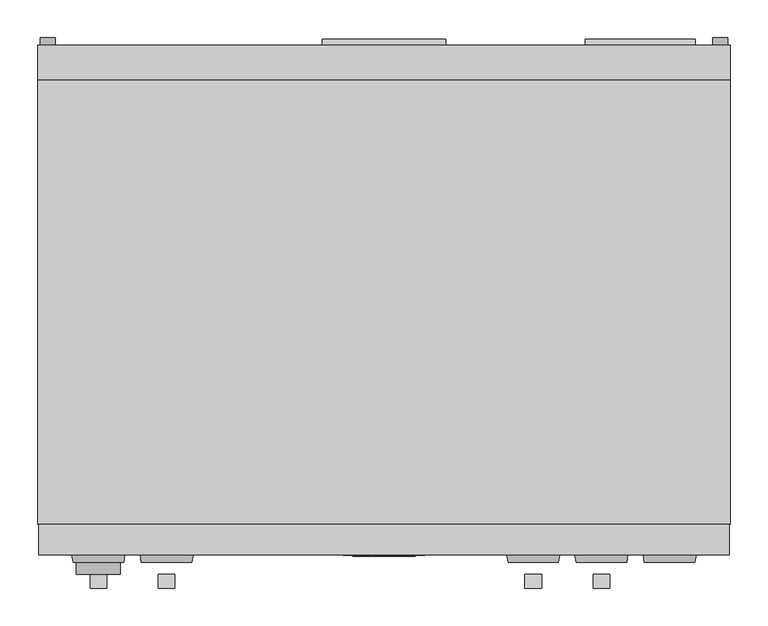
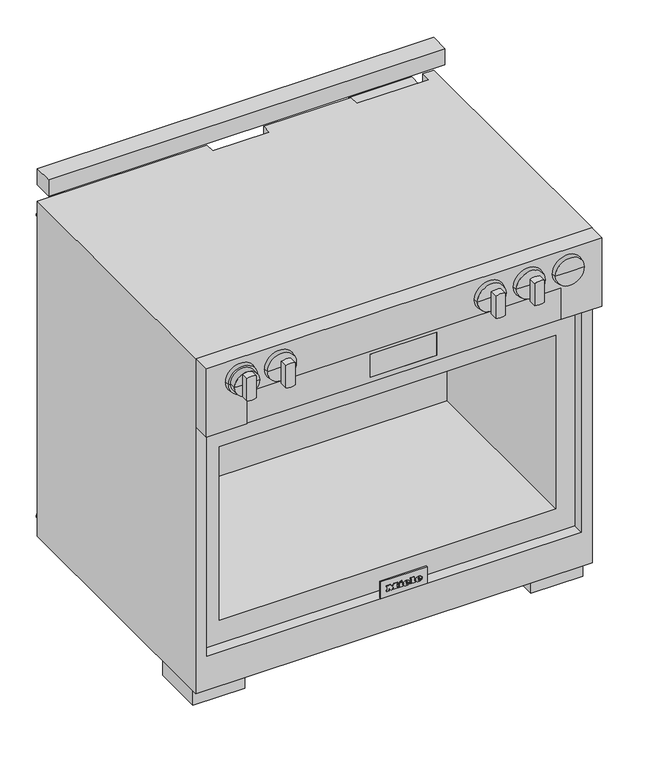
"""IFC4 building model written with IfcOpenShell, lengths in millimetres: proxy geometry, 11791600_USA_HR1935-3G_EDST-CLST : 25193581_USA_11791600_HR1935-3G_EDST-CLST."""

from ifc_helpers import new_model, si_unit, point, frame, frame_2d, origin, origin_with_axes, place, context, project, spatial, polyline, circle_curve, ellipse_curve, trimmed, segment, composite_curve, outline, extrude, faceted_brep, source, transform, mapped, element, save
from ifc_brep_helpers import plane_surface, cylinder_surface, revolved_surface, extruded_surface, advanced_brep


def specialty_equipment_dba59635(model_context):
    return source(origin(), model_context, "Body", "SolidModel", [
        advanced_brep(
        [(-377.0, -683.0, 813.0), (-348.0, -683.0, 813.0), (-406.0, -683.0, 813.0), (-406.0, -699.0, 813.0), (-348.0, -699.0, 813.0), (-377.0, -699.0, 813.0)],
        [
            (0, 1),
            (1, 2, circle_curve(frame((-377.0, -683.0, 813.0), z_axis=(0.0, 1.0, 0.0), x_axis=(1.0, 0.0, 0.0)), 29.0)),
            (2, 0),
            (2, 1, circle_curve(frame((-377.0, -683.0, 813.0), z_axis=(0.0, 1.0, 0.0), x_axis=(1.0, 0.0, 0.0)), 29.0)),
            (3, 4, circle_curve(frame((-377.0, -699.0, 813.0), z_axis=(0.0, -1.0, 0.0), x_axis=(1.0, 0.0, 0.0)), 29.0)),
            (4, 5),
            (5, 3),
            (4, 3, circle_curve(frame((-377.0, -699.0, 813.0), z_axis=(0.0, -1.0, 0.0), x_axis=(1.0, 0.0, 0.0)), 29.0)),
            (1, 4),
            (3, 2),
        ],
        [
            plane_surface(frame((-377.0, -683.0, 813.0), z_axis=(0.0, 1.0, 0.0), x_axis=(1.0, 0.0, 0.0))),
            plane_surface(frame((-377.0, -699.0, 813.0), z_axis=(0.0, -1.0, 0.0), x_axis=(1.0, 0.0, 0.0))),
            cylinder_surface(frame((-377.0, 751.3738435, 813.0), z_axis=(0.0, 1.0, 0.0), x_axis=(1.0, 0.0, 0.0)), 29.0),
        ],
        [
            (0, [[1, 2, 3]]),
            (0, [[-3, 4, -1]]),
            (1, [[5, 6, 7]]),
            (1, [[8, -7, -6]]),
            (2, [[-2, 9, -5, 10]]),
            (2, [[-4, -10, -8, -9]]),
        ],
    ),
        extrude(outline(composite_curve([segment(trimmed(circle_curve(frame_2d((813.0, 287.0)), 29.0), [point((786.1671843, 276.0))], [point((786.1671843, 298.0))], False, "CARTESIAN"), True, "CONTINUOUS"), segment(polyline([(786.1671843, 298.0), (839.8328157, 298.0)]), True, "CONTINUOUS"), segment(trimmed(circle_curve(frame_2d((813.0, 287.0)), 29.0), [point((839.8328157, 298.0))], [point((839.8328157, 276.0))], False, "CARTESIAN"), True, "CONTINUOUS"), segment(polyline([(839.8328157, 276.0), (786.1671843, 276.0)]), True, "CONTINUOUS")], self_intersect=False)), frame((0.0, -717.0, 0.0), z_axis=(0.0, 1.0, 0.0), x_axis=(0.0, 0.0, 1.0)), (0.0, 0.0, 1.0), 18.0),
        extrude(outline(composite_curve([segment(polyline([(839.8328157, 186.0), (786.1671843, 186.0)]), True, "CONTINUOUS"), segment(trimmed(circle_curve(frame_2d((813.0, 197.0)), 29.0), [point((786.1671843, 186.0))], [point((786.1671843, 208.0))], False, "CARTESIAN"), True, "CONTINUOUS"), segment(polyline([(786.1671843, 208.0), (839.8328157, 208.0)]), True, "CONTINUOUS"), segment(trimmed(circle_curve(frame_2d((813.0, 197.0)), 29.0), [point((839.8328157, 208.0))], [point((839.8328157, 186.0))], False, "CARTESIAN"), True, "CONTINUOUS")], self_intersect=False)), frame((0.0, -717.0, 0.0), z_axis=(0.0, 1.0, 0.0), x_axis=(0.0, 0.0, 1.0)), (0.0, 0.0, 1.0), 18.0),
        extrude(outline(composite_curve([segment(polyline([(839.8328157, -298.0), (786.1671843, -298.0)]), True, "CONTINUOUS"), segment(trimmed(circle_curve(frame_2d((813.0, -287.0)), 29.0), [point((786.1671843, -298.0))], [point((786.1671843, -276.0))], False, "CARTESIAN"), True, "CONTINUOUS"), segment(polyline([(786.1671843, -276.0), (839.8328157, -276.0)]), True, "CONTINUOUS"), segment(trimmed(circle_curve(frame_2d((813.0, -287.0)), 29.0), [point((839.8328157, -276.0))], [point((839.8328157, -298.0))], False, "CARTESIAN"), True, "CONTINUOUS")], self_intersect=False)), frame((0.0, -717.0, 0.0), z_axis=(0.0, 1.0, 0.0), x_axis=(0.0, 0.0, 1.0)), (0.0, 0.0, 1.0), 18.0),
        extrude(outline(composite_curve([segment(polyline([(839.8328157, -388.0), (786.1671843, -388.0)]), True, "CONTINUOUS"), segment(trimmed(circle_curve(frame_2d((813.0, -377.0)), 29.0), [point((786.1671843, -388.0))], [point((786.1671843, -366.0))], False, "CARTESIAN"), True, "CONTINUOUS"), segment(polyline([(786.1671843, -366.0), (839.8328157, -366.0)]), True, "CONTINUOUS"), segment(trimmed(circle_curve(frame_2d((813.0, -377.0)), 29.0), [point((839.8328157, -366.0))], [point((839.8328157, -388.0))], False, "CARTESIAN"), True, "CONTINUOUS")], self_intersect=False)), frame((0.0, -717.0, 0.0), z_axis=(0.0, 1.0, 0.0), x_axis=(0.0, 0.0, 1.0)), (0.0, 0.0, 1.0), 18.0),
        advanced_brep(
        [(343.7632698, -683.0, 813.0), (410.2367302, -683.0, 813.0), (377.0, -683.0, 813.0), (342.0, -673.0, 813.0), (412.0, -673.0, 813.0), (377.0, -673.0, 813.0)],
        [
            (0, 1, circle_curve(frame((377.0, -683.0, 813.0), z_axis=(0.0, -1.0, 0.0), x_axis=(1.0, 0.0, 0.0)), 33.2367302)),
            (1, 2),
            (2, 0),
            (1, 0, circle_curve(frame((377.0, -683.0, 813.0), z_axis=(0.0, -1.0, 0.0), x_axis=(1.0, 0.0, 0.0)), 33.2367302)),
            (3, 4, circle_curve(frame((377.0, -673.0, 813.0), z_axis=(0.0, -1.0, 0.0), x_axis=(1.0, 0.0, 0.0)), 35.0)),
            (4, 1),
            (0, 3),
            (4, 3, circle_curve(frame((377.0, -673.0, 813.0), z_axis=(0.0, -1.0, 0.0), x_axis=(1.0, 0.0, 0.0)), 35.0)),
            (5, 4),
            (3, 5),
        ],
        [
            plane_surface(frame((377.0, -683.0, 813.0), z_axis=(0.0, -1.0, 0.0), x_axis=(1.0, 0.0, 0.0))),
            revolved_surface(polyline([(410.2367302, -683.0, 813.0), (412.0, -673.0, 813.0)]), (377.0, 751.3738435, 813.0), (0.0, 1.0, 0.0)),
            plane_surface(frame((377.0, -673.0, 813.0), z_axis=(0.0, 1.0, 0.0), x_axis=(1.0, 0.0, 0.0))),
        ],
        [
            (0, [[1, 2, 3]]),
            (0, [[4, -3, -2]]),
            (1, [[5, 6, -1, 7]]),
            (1, [[8, -7, -4, -6]]),
            (2, [[9, -5, 10]]),
            (2, [[-10, -8, -9]]),
        ],
    ),
        advanced_brep(
        [(253.7632698, -683.0, 813.0), (320.2367302, -683.0, 813.0), (287.0, -683.0, 813.0), (252.0, -673.0, 813.0), (322.0, -673.0, 813.0), (287.0, -673.0, 813.0)],
        [
            (0, 1, circle_curve(frame((287.0, -683.0, 813.0), z_axis=(0.0, -1.0, 0.0), x_axis=(1.0, 0.0, 0.0)), 33.2367302)),
            (1, 2),
            (2, 0),
            (1, 0, circle_curve(frame((287.0, -683.0, 813.0), z_axis=(0.0, -1.0, 0.0), x_axis=(1.0, 0.0, 0.0)), 33.2367302)),
            (3, 4, circle_curve(frame((287.0, -673.0, 813.0), z_axis=(0.0, -1.0, 0.0), x_axis=(1.0, 0.0, 0.0)), 35.0)),
            (4, 1),
            (0, 3),
            (4, 3, circle_curve(frame((287.0, -673.0, 813.0), z_axis=(0.0, -1.0, 0.0), x_axis=(1.0, 0.0, 0.0)), 35.0)),
            (5, 4),
            (3, 5),
        ],
        [
            plane_surface(frame((287.0, -683.0, 813.0), z_axis=(0.0, -1.0, 0.0), x_axis=(1.0, 0.0, 0.0))),
            revolved_surface(polyline([(320.2367302, -683.0, 813.0), (322.0, -673.0, 813.0)]), (287.0, 751.3738435, 813.0), (0.0, 1.0, 0.0)),
            plane_surface(frame((287.0, -673.0, 813.0), z_axis=(0.0, 1.0, 0.0), x_axis=(1.0, 0.0, 0.0))),
        ],
        [
            (0, [[1, 2, 3]]),
            (0, [[4, -3, -2]]),
            (1, [[5, 6, -1, 7]]),
            (1, [[8, -7, -4, -6]]),
            (2, [[9, -5, 10]]),
            (2, [[-10, -8, -9]]),
        ],
    ),
        advanced_brep(
        [(163.7632698, -683.0, 813.0), (230.2367302, -683.0, 813.0), (197.0, -683.0, 813.0), (162.0, -673.0, 813.0), (232.0, -673.0, 813.0), (197.0, -673.0, 813.0)],
        [
            (0, 1, circle_curve(frame((197.0, -683.0, 813.0), z_axis=(0.0, -1.0, 0.0), x_axis=(1.0, 0.0, 0.0)), 33.2367302)),
            (1, 2),
            (2, 0),
            (1, 0, circle_curve(frame((197.0, -683.0, 813.0), z_axis=(0.0, -1.0, 0.0), x_axis=(1.0, 0.0, 0.0)), 33.2367302)),
            (3, 4, circle_curve(frame((197.0, -673.0, 813.0), z_axis=(0.0, -1.0, 0.0), x_axis=(1.0, 0.0, 0.0)), 35.0)),
            (4, 1),
            (0, 3),
            (4, 3, circle_curve(frame((197.0, -673.0, 813.0), z_axis=(0.0, -1.0, 0.0), x_axis=(1.0, 0.0, 0.0)), 35.0)),
            (5, 4),
            (3, 5),
        ],
        [
            plane_surface(frame((197.0, -683.0, 813.0), z_axis=(0.0, -1.0, 0.0), x_axis=(1.0, 0.0, 0.0))),
            revolved_surface(polyline([(230.2367302, -683.0, 813.0), (232.0, -673.0, 813.0)]), (197.0, 751.3738435, 813.0), (0.0, 1.0, 0.0)),
            plane_surface(frame((197.0, -673.0, 813.0), z_axis=(0.0, 1.0, 0.0), x_axis=(1.0, 0.0, 0.0))),
        ],
        [
            (0, [[1, 2, 3]]),
            (0, [[4, -3, -2]]),
            (1, [[5, 6, -1, 7]]),
            (1, [[8, -7, -4, -6]]),
            (2, [[9, -5, 10]]),
            (2, [[-10, -8, -9]]),
        ],
    ),
        advanced_brep(
        [(-320.2367302, -683.0, 813.0), (-253.7632698, -683.0, 813.0), (-287.0, -683.0, 813.0), (-322.0, -673.0, 813.0), (-252.0, -673.0, 813.0), (-287.0, -673.0, 813.0)],
        [
            (0, 1, circle_curve(frame((-287.0, -683.0, 813.0), z_axis=(0.0, -1.0, 0.0), x_axis=(1.0, 0.0, 0.0)), 33.2367302)),
            (1, 2),
            (2, 0),
            (1, 0, circle_curve(frame((-287.0, -683.0, 813.0), z_axis=(0.0, -1.0, 0.0), x_axis=(1.0, 0.0, 0.0)), 33.2367302)),
            (3, 4, circle_curve(frame((-287.0, -673.0, 813.0), z_axis=(0.0, -1.0, 0.0), x_axis=(1.0, 0.0, 0.0)), 35.0)),
            (4, 1),
            (0, 3),
            (4, 3, circle_curve(frame((-287.0, -673.0, 813.0), z_axis=(0.0, -1.0, 0.0), x_axis=(1.0, 0.0, 0.0)), 35.0)),
            (5, 4),
            (3, 5),
        ],
        [
            plane_surface(frame((-287.0, -683.0, 813.0), z_axis=(0.0, -1.0, 0.0), x_axis=(1.0, 0.0, 0.0))),
            revolved_surface(polyline([(-253.7632698, -683.0, 813.0), (-252.0, -673.0, 813.0)]), (-287.0, 751.3738435, 813.0), (0.0, 1.0, 0.0)),
            plane_surface(frame((-287.0, -673.0, 813.0), z_axis=(0.0, 1.0, 0.0), x_axis=(1.0, 0.0, 0.0))),
        ],
        [
            (0, [[1, 2, 3]]),
            (0, [[4, -3, -2]]),
            (1, [[5, 6, -1, 7]]),
            (1, [[8, -7, -4, -6]]),
            (2, [[9, -5, 10]]),
            (2, [[-10, -8, -9]]),
        ],
    ),
        advanced_brep(
        [(-410.2367302, -683.0, 813.0), (-343.7632698, -683.0, 813.0), (-377.0, -683.0, 813.0), (-412.0, -673.0, 813.0), (-342.0, -673.0, 813.0), (-377.0, -673.0, 813.0)],
        [
            (0, 1, circle_curve(frame((-377.0, -683.0, 813.0), z_axis=(0.0, -1.0, 0.0), x_axis=(1.0, 0.0, 0.0)), 33.2367302)),
            (1, 2),
            (2, 0),
            (1, 0, circle_curve(frame((-377.0, -683.0, 813.0), z_axis=(0.0, -1.0, 0.0), x_axis=(1.0, 0.0, 0.0)), 33.2367302)),
            (3, 4, circle_curve(frame((-377.0, -673.0, 813.0), z_axis=(0.0, -1.0, 0.0), x_axis=(1.0, 0.0, 0.0)), 35.0)),
            (4, 1),
            (0, 3),
            (4, 3, circle_curve(frame((-377.0, -673.0, 813.0), z_axis=(0.0, -1.0, 0.0), x_axis=(1.0, 0.0, 0.0)), 35.0)),
            (5, 4),
            (3, 5),
        ],
        [
            plane_surface(frame((-377.0, -683.0, 813.0), z_axis=(0.0, -1.0, 0.0), x_axis=(1.0, 0.0, 0.0))),
            revolved_surface(polyline([(-343.7632698, -683.0, 813.0), (-342.0, -673.0, 813.0)]), (-377.0, 751.3738435, 813.0), (0.0, 1.0, 0.0)),
            plane_surface(frame((-377.0, -673.0, 813.0), z_axis=(0.0, 1.0, 0.0), x_axis=(1.0, 0.0, 0.0))),
        ],
        [
            (0, [[1, 2, 3]]),
            (0, [[4, -3, -2]]),
            (1, [[5, 6, -1, 7]]),
            (1, [[8, -7, -4, -6]]),
            (2, [[9, -5, 10]]),
            (2, [[-10, -8, -9]]),
        ],
    ),
        faceted_brep([(456.0, -673.0, 862.0), (-456.0, -673.0, 862.0), (-456.0, -673.0, 695.0), (-363.0, -673.0, 695.0), (-363.0, -673.0, 772.0), (363.0, -673.0, 772.0), (363.0, -673.0, 695.0), (456.0, -673.0, 695.0), (456.0, -633.0, 862.0), (456.0, -633.0, 695.0), (-456.0, -633.0, 695.0), (-456.0, -633.0, 862.0), (363.0, -666.7, 695.0), (-363.0, -666.7, 695.0), (363.0, -666.7, 772.0), (-363.0, -666.7, 772.0)], [[[0, 1, 2, 3, 4, 5, 6, 7]], [[8, 9, 10, 11]], [[0, 7, 9, 8]], [[10, 9, 7, 6, 12, 13, 3, 2]], [[2, 1, 11, 10]], [[1, 0, 8, 11]], [[14, 15, 13, 12]], [[14, 12, 6, 5]], [[13, 15, 4, 3]], [[15, 14, 5, 4]]]),
        extrude(outline(polyline([(772.0, 363.0), (772.0, -363.0), (695.0, -363.0), (695.0, 363.0), (772.0, 363.0)]), holes=[polyline([(763.0, 76.5), (707.0, 76.5), (707.0, -76.5), (763.0, -76.5), (763.0, 76.5)])]), frame((0.0, -671.7, 0.0), z_axis=(0.0, 1.0, 0.0), x_axis=(0.0, 0.0, 1.0)), (0.0, 0.0, 1.0), 5.0),
        extrude(outline(polyline([(76.5, -671.7), (-76.5, -671.7), (-76.5, -670.7), (76.5, -670.7), (76.5, -671.7)])), frame((0.0, 0.0, 707.0), z_axis=(0.0, 0.0, 1.0), x_axis=(1.0, 0.0, 0.0)), (0.0, 0.0, 1.0), 56.0),
        extrude(outline(polyline([(-330.0, -489.0), (-330.0, -609.0), (-450.0, -609.0), (-450.0, -489.0), (-330.0, -489.0)])), origin_with_axes(), (0.0, 0.0, 1.0), 45.0),
        extrude(outline(polyline([(450.0, -489.0), (450.0, -609.0), (330.0, -609.0), (330.0, -489.0), (450.0, -489.0)])), origin_with_axes(), (0.0, 0.0, 1.0), 45.0),
        extrude(outline(composite_curve([segment(trimmed(circle_curve(frame_2d((-152.0, 39.6862697)), 39.6862697), [point((-112.6710759, 45.0))], [point((-191.3289241, 45.0))], False, "CARTESIAN"), True, "CONTINUOUS"), segment(polyline([(-191.3289241, 45.0), (-112.6710759, 45.0)]), True, "CONTINUOUS")], self_intersect=False)), frame((-310.0, 0.0, 0.0), z_axis=(1.0, 0.0, 0.0), x_axis=(0.0, 1.0, 0.0)), (0.0, 0.0, 1.0), 28.0),
        faceted_brep([(-457.0, 0.0, 862.0), (-457.0, -633.0, 862.0), (457.0, -633.0, 862.0), (457.0, 0.0, 862.0), (432.0, 0.0, 862.0), (432.0, -23.0, 862.0), (266.0, -23.0, 862.0), (266.0, 0.0, 862.0), (65.0, 0.0, 862.0), (65.0, -23.0, 862.0), (-66.0, -23.0, 862.0), (-66.0, 0.0, 862.0), (457.0, 0.0, 45.0), (457.0, -633.0, 45.0), (-457.0, -633.0, 45.0), (-457.0, 0.0, 45.0), (-432.0, 0.0, 45.0), (-432.0, -75.0, 45.0), (432.0, -75.0, 45.0), (432.0, 0.0, 45.0), (266.0, 0.0, 132.0), (65.0, 0.0, 132.0), (-66.0, 0.0, 132.0), (-270.0, 0.0, 132.0), (-270.0, 0.0, 784.0), (-411.0, 0.0, 784.0), (-411.0, 0.0, 132.0), (-432.0, 0.0, 132.0), (432.0, -633.0, 695.0), (432.0, -633.0, 128.0), (-432.0, -633.0, 128.0), (-432.0, -633.0, 695.0), (432.0, -608.0, 695.0), (-432.0, -608.0, 695.0), (-432.0, -608.0, 128.0), (432.0, -608.0, 128.0), (388.0, -608.0, 608.0), (388.0, -608.0, 185.0), (-388.0, -608.0, 185.0), (-388.0, -608.0, 608.0), (388.0, -173.0, 608.0), (-388.0, -173.0, 608.0), (-388.0, -173.0, 185.0), (388.0, -173.0, 185.0), (432.0, -23.0, 132.0), (266.0, -23.0, 132.0), (65.0, -23.0, 132.0), (-66.0, -23.0, 132.0), (432.0, -75.0, 132.0), (-411.0, -69.0, 784.0), (-270.0, -69.0, 784.0), (-270.0, -69.0, 132.0), (-411.0, -69.0, 132.0), (-432.0, -75.0, 132.0)], [[[0, 1, 2, 3, 4, 5, 6, 7, 8, 9, 10, 11]], [[12, 13, 14, 15, 16, 17, 18, 19]], [[8, 7, 20, 21]], [[3, 12, 19, 4]], [[15, 0, 11, 22, 23, 24, 25, 26, 27, 16]], [[1, 0, 15, 14]], [[2, 1, 14, 13], [28, 29, 30, 31]], [[3, 2, 13, 12]], [[32, 33, 34, 35], [36, 37, 38, 39]], [[32, 35, 29, 28]], [[35, 34, 30, 29]], [[34, 33, 31, 30]], [[33, 32, 28, 31]], [[40, 41, 42, 43]], [[40, 43, 37, 36]], [[43, 42, 38, 37]], [[42, 41, 39, 38]], [[41, 40, 36, 39]], [[6, 5, 44, 45]], [[10, 9, 46, 47]], [[9, 8, 21, 46]], [[11, 10, 47, 22]], [[5, 4, 19, 18, 48, 44]], [[7, 6, 45, 20]], [[49, 50, 51, 52]], [[50, 49, 25, 24]], [[50, 24, 23, 51]], [[25, 49, 52, 26]], [[53, 48, 18, 17]], [[27, 53, 17, 16]], [[48, 53, 27, 26, 52, 51, 23, 22, 47, 46, 21, 20, 45, 44]]]),
        extrude(outline(composite_curve([segment(trimmed(circle_curve(frame_2d((748.0, -299.0)), 7.5), [point((748.0, -291.5))], [point((748.0, -306.5))], False, "CARTESIAN"), True, "CONTINUOUS"), segment(trimmed(circle_curve(frame_2d((748.0, -299.0)), 7.5), [point((748.0, -306.5))], [point((748.0, -291.5))], False, "CARTESIAN"), True, "CONTINUOUS")], self_intersect=False)), frame((0.0, -66.0, 0.0), z_axis=(0.0, 1.0, 0.0), x_axis=(0.0, 0.0, 1.0)), (0.0, 0.0, 1.0), 30.0),
        extrude(outline(polyline([(743.0, -288.4829639), (753.0509015, -288.4829639), (753.0509015, -289.7409127), (748.1386151, -289.7409127), (753.0475587, -294.8904554), (753.0475587, -296.6455728), (748.9164775, -292.3179994), (743.0, -296.8019347), (743.0, -295.2701694), (748.0664133, -291.4304743), (746.4465471, -289.7392234), (743.0, -289.7392234), (743.0, -288.4829639)])), frame((0.0, -36.0, 0.0), z_axis=(0.0, 1.0, 0.0), x_axis=(0.0, 0.0, 1.0)), (0.0, 0.0, 1.0), 1.0),
        extrude(outline(polyline([(742.9900117, -299.5376107), (753.0405487, -296.8032463), (753.0405487, -298.1010309), (744.3952189, -300.1941056), (753.0411296, -302.6946617), (753.0411296, -304.5615338), (744.4117226, -307.0845612), (753.0419182, -309.165026), (753.0419182, -310.4626989), (742.9984871, -307.7244126), (742.9984871, -306.3735976), (751.8308623, -303.6286268), (742.9900117, -301.0716905), (742.9900117, -299.5376107)])), frame((0.0, -36.0, 0.0), z_axis=(0.0, 1.0, 0.0), x_axis=(0.0, 0.0, 1.0)), (0.0, 0.0, 1.0), 1.0),
        extrude(outline(composite_curve([segment(trimmed(circle_curve(frame_2d((-362.0, -35.0)), 7.5), [point((-369.5, -35.0))], [point((-354.5, -35.0))], False, "CARTESIAN"), True, "CONTINUOUS"), segment(trimmed(circle_curve(frame_2d((-362.0, -35.0)), 7.5), [point((-354.5, -35.0))], [point((-369.5, -35.0))], False, "CARTESIAN"), True, "CONTINUOUS")], self_intersect=False)), frame((0.0, 0.0, 754.0), z_axis=(0.0, 0.0, 1.0), x_axis=(1.0, 0.0, 0.0)), (0.0, 0.0, 1.0), 30.0),
        extrude(outline(composite_curve([segment(trimmed(circle_curve(frame_2d((239.0, -44.0)), 7.5), [point((239.0, -51.5))], [point((239.0, -36.5))], False, "CARTESIAN"), True, "CONTINUOUS"), segment(trimmed(circle_curve(frame_2d((239.0, -44.0)), 7.5), [point((239.0, -36.5))], [point((239.0, -51.5))], False, "CARTESIAN"), True, "CONTINUOUS")], self_intersect=False)), frame((0.0, 0.0, 102.0), z_axis=(0.0, 0.0, 1.0), x_axis=(1.0, 0.0, 0.0)), (0.0, 0.0, 1.0), 30.0),
        extrude(outline(polyline([(246.4261097, -48.2846028), (239.1553153, -48.2846028), (239.1553153, -47.0259878), (245.1324687, -47.0259878), (245.1324687, -44.0398896), (239.4699511, -44.0398896), (239.4699511, -42.7868997), (245.1324687, -42.7868997), (245.1324687, -39.484481), (239.0234692, -39.484481), (239.0234692, -38.223126), (246.4261097, -38.223126), (246.4261097, -48.2846028)])), frame((0.0, 0.0, 101.0), z_axis=(0.0, 0.0, 1.0), x_axis=(1.0, 0.0, 0.0)), (0.0, 0.0, 1.0), 1.0),
        extrude(outline(polyline([(237.0939455, -48.2781045), (230.9083542, -48.2781045), (230.9083542, -47.0259878), (235.9083542, -47.0259878), (235.9083542, -38.223126), (237.0939455, -38.223126), (237.0939455, -48.2781045)])), frame((0.0, 0.0, 101.0), z_axis=(0.0, 0.0, 1.0), x_axis=(1.0, 0.0, 0.0)), (0.0, 0.0, 1.0), 1.0),
        extrude(outline(composite_curve([segment(polyline([(-359.0941465, -34.8216074), (-355.0193946, -34.8216074), (-355.0193946, -36.0727848), (-357.8300756, -36.0727848), (-357.8300756, -37.8953779), (-356.5547934, -38.5734575), (-354.8554891, -38.8730907)]), True, "CONTINUOUS"), segment(trimmed(circle_curve(frame_2d((-354.7763582, -35.1835188)), 3.6904203), [point((-354.8554891, -38.8730907))], [point((-351.0917956, -34.975672))], True, "CARTESIAN"), True, "CONTINUOUS"), segment(trimmed(circle_curve(frame_2d((-355.2742118, -35.2116028)), 4.1890654), [point((-351.0917956, -34.975672))], [point((-354.8924604, -31.0399683))], True, "CARTESIAN"), True, "CONTINUOUS"), segment(trimmed(circle_curve(frame_2d((-355.1434541, -33.7827322)), 2.7542243), [point((-354.8924604, -31.0399683))], [point((-357.2311401, -31.9862582))], True, "CARTESIAN"), True, "CONTINUOUS"), segment(polyline([(-357.2311401, -31.9862582), (-357.7913432, -33.1348449), (-358.9545959, -32.808521), (-358.2222817, -31.1459412)]), True, "CONTINUOUS"), segment(trimmed(circle_curve(frame_2d((-355.0056573, -34.3038983)), 4.5077007), [point((-358.2222817, -31.1459412))], [point((-354.8478593, -29.7989604))], False, "CARTESIAN"), True, "CONTINUOUS"), segment(trimmed(circle_curve(frame_2d((-355.0297107, -35.0029797)), 5.2071956), [point((-354.8478593, -29.7989604))], [point((-349.8225151, -35.0029797))], False, "CARTESIAN"), True, "CONTINUOUS"), segment(trimmed(circle_curve(frame_2d((-355.0187023, -34.9634409)), 5.1963376), [point((-349.8225151, -35.0029797))], [point((-355.0187023, -40.1597785))], False, "CARTESIAN"), True, "CONTINUOUS"), segment(polyline([(-355.0187023, -40.1597785), (-357.0821579, -39.7823822), (-359.0941465, -38.5734575), (-359.0941465, -34.8216074)]), True, "CONTINUOUS")], self_intersect=False)), frame((0.0, 0.0, 753.0), z_axis=(0.0, 0.0, 1.0), x_axis=(1.0, 0.0, 0.0)), (0.0, 0.0, 1.0), 1.0),
        extrude(outline(composite_curve([segment(polyline([(-369.4581842, -37.6489066), (-368.202206, -37.8031213), (-369.1593436, -39.5606642)]), True, "CONTINUOUS"), segment(trimmed(circle_curve(frame_2d((-371.3057471, -36.6354063)), 3.6282478), [point((-369.1593436, -39.5606642))], [point((-372.8962663, -39.8964538))], False, "CARTESIAN"), True, "CONTINUOUS"), segment(trimmed(circle_curve(frame_2d((-371.7731504, -37.593725)), 2.5620205), [point((-372.8962663, -39.8964538))], [point((-374.32893, -37.7724425))], False, "CARTESIAN"), True, "CONTINUOUS"), segment(trimmed(circle_curve(frame_2d((-372.617737, -37.6527843)), 1.7153715), [point((-374.32893, -37.7724425))], [point((-373.147816, -36.021369))], False, "CARTESIAN"), True, "CONTINUOUS"), segment(polyline([(-373.147816, -36.021369), (-371.3069947, -35.4232499), (-369.987673, -33.9770867)]), True, "CONTINUOUS"), segment(trimmed(circle_curve(frame_2d((-371.1408399, -36.351197)), 2.6393548), [point((-369.987673, -33.9770867))], [point((-372.2940069, -33.9770867))], True, "CARTESIAN"), True, "CONTINUOUS"), segment(polyline([(-372.2940069, -33.9770867), (-372.7553884, -34.6611129), (-374.0084996, -34.5072502), (-373.5756304, -33.3795875)]), True, "CONTINUOUS"), segment(trimmed(circle_curve(frame_2d((-370.9527143, -36.6576461)), 4.1982564), [point((-373.5756304, -33.3795875))], [point((-371.0505395, -32.4605295))], False, "CARTESIAN"), True, "CONTINUOUS"), segment(trimmed(circle_curve(frame_2d((-370.9805679, -35.4626064)), 3.0028922), [point((-371.0505395, -32.4605295))], [point((-368.5718203, -33.6694816))], False, "CARTESIAN"), True, "CONTINUOUS"), segment(trimmed(circle_curve(frame_2d((-370.4380028, -34.5301363)), 2.0550823), [point((-368.5718203, -33.6694816))], [point((-369.4341096, -36.323335))], False, "CARTESIAN"), True, "CONTINUOUS"), segment(polyline([(-369.4341096, -36.323335), (-371.3494535, -36.9828408), (-373.0597255, -37.9076387), (-372.6768706, -38.6156702)]), True, "CONTINUOUS"), segment(trimmed(circle_curve(frame_2d((-371.3695779, -35.6018954)), 3.2850956), [point((-372.6768706, -38.6156702))], [point((-370.0622852, -38.6156702))], True, "CARTESIAN"), True, "CONTINUOUS"), segment(polyline([(-370.0622852, -38.6156702), (-369.4581842, -37.6489066)]), True, "CONTINUOUS")], self_intersect=False)), frame((0.0, 0.0, 753.0), z_axis=(0.0, 0.0, 1.0), x_axis=(1.0, 0.0, 0.0)), (0.0, 0.0, 1.0), 1.0),
        extrude(outline(composite_curve([segment(polyline([(-366.0009008, -40.0), (-367.2635363, -40.0), (-367.0191787, -38.9415709), (-366.8778726, -34.1117735)]), True, "CONTINUOUS"), segment(trimmed(circle_curve(frame_2d((-365.387549, -34.1553762)), 1.4909613), [point((-366.8778726, -34.1117735))], [point((-365.6381402, -32.6856246))], False, "CARTESIAN"), True, "CONTINUOUS"), segment(trimmed(circle_curve(frame_2d((-364.1175682, -37.7832301)), 5.3195602), [point((-365.6381402, -32.6856246))], [point((-362.440667, -32.7348914))], False, "CARTESIAN"), True, "CONTINUOUS"), segment(polyline([(-362.440667, -32.7348914), (-361.3643767, -33.4338425), (-360.8177226, -34.6616478), (-362.0710839, -34.8155412), (-362.6628147, -33.9704619)]), True, "CONTINUOUS"), segment(trimmed(circle_curve(frame_2d((-363.889909, -36.6278559)), 2.9270297), [point((-362.6628147, -33.9704619))], [point((-365.335883, -34.0829271))], True, "CARTESIAN"), True, "CONTINUOUS"), segment(polyline([(-365.335883, -34.0829271), (-365.6819155, -35.289686), (-362.4250607, -35.9227545)]), True, "CONTINUOUS"), segment(trimmed(circle_curve(frame_2d((-362.8373847, -38.0439776)), 2.1609254), [point((-362.4250607, -35.9227545))], [point((-361.2872437, -39.5495212))], False, "CARTESIAN"), True, "CONTINUOUS"), segment(trimmed(circle_curve(frame_2d((-363.2230106, -36.6941434)), 3.4496922), [point((-361.2872437, -39.5495212))], [point((-364.4810512, -39.9062626))], False, "CARTESIAN"), True, "CONTINUOUS"), segment(polyline([(-364.4810512, -39.9062626), (-365.6943945, -39.0566705), (-366.0009008, -40.0)]), True, "CONTINUOUS")], self_intersect=False), holes=[composite_curve([segment(polyline([(-365.6808047, -36.7241112), (-365.4778117, -37.8753414), (-364.6808418, -38.5929363), (-363.3846505, -38.8921857)]), True, "CONTINUOUS"), segment(trimmed(circle_curve(frame_2d((-363.1641539, -37.9371101)), 0.980198), [point((-363.3846505, -38.8921857))], [point((-362.5826105, -37.148063))], True, "CARTESIAN"), True, "CONTINUOUS"), segment(polyline([(-362.5826105, -37.148063), (-363.683896, -36.9339948), (-365.6808047, -36.7241112)]), True, "CONTINUOUS")], self_intersect=False)]), frame((0.0, 0.0, 753.0), z_axis=(0.0, 0.0, 1.0), x_axis=(1.0, 0.0, 0.0)), (0.0, 0.0, 1.0), 1.0),
        extrude(outline(composite_curve([segment(trimmed(circle_curve(frame_2d((-152.0, 39.6862697)), 39.6862697), [point((-112.6710759, 45.0))], [point((-191.3289241, 45.0))], False, "CARTESIAN"), True, "CONTINUOUS"), segment(polyline([(-191.3289241, 45.0), (-112.6710759, 45.0)]), True, "CONTINUOUS")], self_intersect=False)), frame((282.0, 0.0, 0.0), z_axis=(1.0, 0.0, 0.0), x_axis=(0.0, 1.0, 0.0)), (0.0, 0.0, 1.0), 28.0),
        extrude(outline(polyline([(-81.5, 8.0), (81.5, 8.0), (81.5, 0.0), (-81.5, 0.0), (-81.5, 8.0)])), frame((0.0, 0.0, 559.0), z_axis=(0.0, 0.0, 1.0), x_axis=(1.0, 0.0, 0.0)), (0.0, 0.0, 1.0), 237.0),
        extrude(outline(polyline([(266.0, 8.0), (411.0, 8.0), (411.0, -23.0), (266.0, -23.0), (266.0, 8.0)])), frame((0.0, 0.0, 742.0), z_axis=(0.0, 0.0, 1.0), x_axis=(1.0, 0.0, 0.0)), (0.0, 0.0, 1.0), 115.0),
        extrude(outline(composite_curve([segment(trimmed(circle_curve(frame_2d((822.0, 444.0)), 10.0), [point((822.0, 454.0))], [point((822.0, 434.0))], False, "CARTESIAN"), True, "CONTINUOUS"), segment(trimmed(circle_curve(frame_2d((822.0, 444.0)), 10.0), [point((822.0, 434.0))], [point((822.0, 454.0))], False, "CARTESIAN"), True, "CONTINUOUS")], self_intersect=False)), frame((0.0, 0.0, 0.0), z_axis=(0.0, 1.0, 0.0), x_axis=(0.0, 0.0, 1.0)), (0.0, 0.0, 1.0), 10.0),
        extrude(outline(composite_curve([segment(trimmed(circle_curve(frame_2d((87.0, 444.0)), 10.0), [point((87.0, 454.0))], [point((87.0, 434.0))], False, "CARTESIAN"), True, "CONTINUOUS"), segment(trimmed(circle_curve(frame_2d((87.0, 444.0)), 10.0), [point((87.0, 434.0))], [point((87.0, 454.0))], False, "CARTESIAN"), True, "CONTINUOUS")], self_intersect=False)), frame((0.0, 0.0, 0.0), z_axis=(0.0, 1.0, 0.0), x_axis=(0.0, 0.0, 1.0)), (0.0, 0.0, 1.0), 10.0),
        extrude(outline(composite_curve([segment(trimmed(circle_curve(frame_2d((822.0, -444.0)), 10.0), [point((822.0, -434.0))], [point((822.0, -454.0))], False, "CARTESIAN"), True, "CONTINUOUS"), segment(trimmed(circle_curve(frame_2d((822.0, -444.0)), 10.0), [point((822.0, -454.0))], [point((822.0, -434.0))], False, "CARTESIAN"), True, "CONTINUOUS")], self_intersect=False)), frame((0.0, 0.0, 0.0), z_axis=(0.0, 1.0, 0.0), x_axis=(0.0, 0.0, 1.0)), (0.0, 0.0, 1.0), 10.0),
        extrude(outline(composite_curve([segment(trimmed(circle_curve(frame_2d((87.0, -444.0)), 10.0), [point((87.0, -434.0))], [point((87.0, -454.0))], False, "CARTESIAN"), True, "CONTINUOUS"), segment(trimmed(circle_curve(frame_2d((87.0, -444.0)), 10.0), [point((87.0, -454.0))], [point((87.0, -434.0))], False, "CARTESIAN"), True, "CONTINUOUS")], self_intersect=False)), frame((0.0, 0.0, 0.0), z_axis=(0.0, 1.0, 0.0), x_axis=(0.0, 0.0, 1.0)), (0.0, 0.0, 1.0), 10.0),
        advanced_brep(
        [(32.17, -675.0, 177.1995), (32.17, -675.0, 178.563), (41.2015, -675.0, 178.563), (25.4875, -675.0, 178.563), (29.2, -675.0, 174.0), (40.972, -675.0, 177.1995), (36.895, -675.0, 177.1995), (33.682, -675.0, 175.6875), (32.17, -675.0, 180.291), (32.17, -675.0, 181.7625), (34.4785, -675.0, 181.7625), (34.4785, -675.0, 180.291), (32.17, -674.0, 177.1995), (33.682, -674.0, 175.6875), (36.895, -674.0, 177.1995), (40.972, -674.0, 177.1995), (29.2, -674.0, 174.0), (25.4875, -674.0, 178.563), (41.2015, -674.0, 178.563), (32.17, -674.0, 178.563), (32.17, -674.0, 180.291), (34.4785, -674.0, 180.291), (34.4785, -674.0, 181.7625), (32.17, -674.0, 181.7625)],
        [
            (0, 1),
            (1, 2),
            (2, 3, ellipse_curve(frame((33.3445, -675.0, 178.563), z_axis=(0.0, -1.0, 0.0), x_axis=(-1.0, 0.0, 0.0)), 7.857, 6.4935)),
            (3, 4, circle_curve(frame((30.7120736, -675.0, 179.022), z_axis=(0.0, -1.0, 0.0), x_axis=(0.0, 0.0, -1.0)), 5.2446974)),
            (4, 5, circle_curve(frame((33.1872142, -675.0, 182.586), z_axis=(0.0, -1.0, 0.0), x_axis=(0.0, 0.0, -1.0)), 9.46664)),
            (5, 6),
            (6, 7, circle_curve(frame((34.3419118, -675.0, 178.455), z_axis=(0.0, 1.0, 0.0), x_axis=(0.0, 0.0, -1.0)), 2.8450905)),
            (7, 0, circle_curve(frame((33.682, -675.0, 177.1995), z_axis=(0.0, 1.0, 0.0), x_axis=(0.0, 0.0, -1.0)), 1.512)),
            (8, 9),
            (9, 10, circle_curve(frame((33.32425, -675.0, 181.7625), z_axis=(0.0, 1.0, 0.0), x_axis=(0.0, 0.0, -1.0)), 1.15425)),
            (10, 11),
            (11, 8),
            (12, 13, circle_curve(frame((33.682, -674.0, 177.1995), z_axis=(0.0, -1.0, 0.0), x_axis=(0.0, 0.0, -1.0)), 1.512)),
            (13, 14, circle_curve(frame((34.3419118, -674.0, 178.455), z_axis=(0.0, -1.0, 0.0), x_axis=(0.0, 0.0, -1.0)), 2.8450905)),
            (14, 15),
            (15, 16, circle_curve(frame((33.1872142, -674.0, 182.586), z_axis=(0.0, 1.0, 0.0), x_axis=(0.0, 0.0, -1.0)), 9.46664)),
            (16, 17, circle_curve(frame((30.7120736, -674.0, 179.022), z_axis=(0.0, 1.0, 0.0), x_axis=(0.0, 0.0, -1.0)), 5.2446974)),
            (17, 18, ellipse_curve(frame((33.3445, -674.0, 178.563), z_axis=(0.0, 1.0, 0.0), x_axis=(-1.0, 0.0, 0.0)), 7.857, 6.4935)),
            (18, 19),
            (19, 12),
            (20, 21),
            (21, 22),
            (22, 23, circle_curve(frame((33.32425, -674.0, 181.7625), z_axis=(0.0, -1.0, 0.0), x_axis=(0.0, 0.0, -1.0)), 1.15425)),
            (23, 20),
            (0, 12),
            (19, 1),
            (18, 2),
            (5, 15),
            (14, 6),
            (17, 3),
            (13, 7),
            (16, 4),
            (8, 20),
            (23, 9),
            (22, 10),
            (21, 11),
        ],
        [
            plane_surface(frame((32.17, -675.0, 178.563), z_axis=(0.0, -1.0, 0.0), x_axis=(0.0, 0.0, 1.0))),
            plane_surface(frame((32.17, -674.0, 178.563), z_axis=(0.0, 1.0, 0.0), x_axis=(0.0, 0.0, -1.0))),
            plane_surface(frame((32.17, -675.0, 177.1995), z_axis=(1.0, 0.0, 0.0), x_axis=(0.0, 1.0, 0.0))),
            plane_surface(frame((32.17, -675.0, 178.563), z_axis=(0.0, 0.0, -1.0), x_axis=(0.0, 1.0, 0.0))),
            plane_surface(frame((40.972, -675.0, 177.1995), z_axis=(0.0, 0.0, 1.0), x_axis=(0.0, 1.0, 0.0))),
            extruded_surface(trimmed(ellipse_curve(frame((33.3445, -673.0, 178.563), z_axis=(0.0, -1.0, 0.0), x_axis=(-1.0, 0.0, 0.0)), 7.857, 6.4935), [point((41.2015, -673.0, 178.563))], [point((25.4875, -673.0, 178.563))], True, "CARTESIAN"), (0.0, -1.0, 0.0), 1.0),
            revolved_surface(polyline([(34.3419118, -674.0, 175.60990950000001), (34.3419118, -675.0, 175.60990950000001)]), (34.3419118, -674.0, 178.455), (0.0, 1.0, 0.0)),
            revolved_surface(polyline([(33.682, -674.0, 175.6875), (33.682, -675.0, 175.6875)]), (33.682, -674.0, 177.1995), (0.0, 1.0, 0.0)),
            cylinder_surface(frame((30.7120736, -674.0, 179.022), z_axis=(0.0, -1.0, 0.0), x_axis=(0.0, 0.0, -1.0)), 5.2446974),
            cylinder_surface(frame((33.1872142, -674.0, 182.586), z_axis=(0.0, -1.0, 0.0), x_axis=(0.0, 0.0, -1.0)), 9.46664),
            plane_surface(frame((32.17, -675.0, 180.291), z_axis=(1.0, 0.0, 0.0), x_axis=(0.0, 1.0, 0.0))),
            revolved_surface(polyline([(33.32425, -674.0, 180.60825), (33.32425, -675.0, 180.60825)]), (33.32425, -674.0, 181.7625), (0.0, 1.0, 0.0)),
            plane_surface(frame((34.4785, -675.0, 181.7625), z_axis=(-1.0, 0.0, 0.0), x_axis=(0.0, 1.0, 0.0))),
            plane_surface(frame((34.4785, -675.0, 180.291), z_axis=(0.0, 0.0, 1.0), x_axis=(0.0, 1.0, 0.0))),
        ],
        [
            (0, [[1, 2, 3, 4, 5, 6, 7, 8], [9, 10, 11, 12]]),
            (1, [[13, 14, 15, 16, 17, 18, 19, 20], [21, 22, 23, 24]]),
            (2, [[-1, 25, -20, 26]]),
            (3, [[-2, -26, -19, 27]]),
            (4, [[-6, 28, -15, 29]]),
            (5, [[-3, -27, -18, 30]]),
            (6, [[-7, -29, -14, 31]]),
            (7, [[-8, -31, -13, -25]]),
            (8, [[-4, -30, -17, 32]]),
            (9, [[-5, -32, -16, -28]]),
            (10, [[-9, 33, -24, 34]]),
            (11, [[-10, -34, -23, 35]]),
            (12, [[-11, -35, -22, 36]]),
            (13, [[-12, -36, -21, -33]]),
        ],
    ),
        advanced_brep(
        [(3.9955, -675.0, 177.1995), (3.9955, -675.0, 178.563), (13.027, -675.0, 178.563), (-2.687, -675.0, 178.563), (1.0255, -675.0, 174.0), (12.7975, -675.0, 177.1995), (8.7205, -675.0, 177.1995), (5.5075, -675.0, 175.6875), (3.9955, -675.0, 180.291), (3.9955, -675.0, 181.7625), (6.304, -675.0, 181.7625), (6.304, -675.0, 180.291), (3.9955, -674.0, 177.1995), (5.5075, -674.0, 175.6875), (8.7205, -674.0, 177.1995), (12.7975, -674.0, 177.1995), (1.0255, -674.0, 174.0), (-2.687, -674.0, 178.563), (13.027, -674.0, 178.563), (3.9955, -674.0, 178.563), (3.9955, -674.0, 180.291), (6.304, -674.0, 180.291), (6.304, -674.0, 181.7625), (3.9955, -674.0, 181.7625)],
        [
            (0, 1),
            (1, 2),
            (2, 3, ellipse_curve(frame((5.17, -675.0, 178.563), z_axis=(0.0, -1.0, 0.0), x_axis=(-1.0, 0.0, 0.0)), 7.857, 6.4935)),
            (3, 4, circle_curve(frame((2.5375736, -675.0, 179.022), z_axis=(0.0, -1.0, 0.0), x_axis=(0.0, 0.0, -1.0)), 5.2446974)),
            (4, 5, circle_curve(frame((5.0127142, -675.0, 182.586), z_axis=(0.0, -1.0, 0.0), x_axis=(0.0, 0.0, -1.0)), 9.46664)),
            (5, 6),
            (6, 7, circle_curve(frame((6.1674118, -675.0, 178.455), z_axis=(0.0, 1.0, 0.0), x_axis=(0.0, 0.0, -1.0)), 2.8450905)),
            (7, 0, circle_curve(frame((5.5075, -675.0, 177.1995), z_axis=(0.0, 1.0, 0.0), x_axis=(0.0, 0.0, -1.0)), 1.512)),
            (8, 9),
            (9, 10, circle_curve(frame((5.14975, -675.0, 181.7625), z_axis=(0.0, 1.0, 0.0), x_axis=(0.0, 0.0, -1.0)), 1.15425)),
            (10, 11),
            (11, 8),
            (12, 13, circle_curve(frame((5.5075, -674.0, 177.1995), z_axis=(0.0, -1.0, 0.0), x_axis=(0.0, 0.0, -1.0)), 1.512)),
            (13, 14, circle_curve(frame((6.1674118, -674.0, 178.455), z_axis=(0.0, -1.0, 0.0), x_axis=(0.0, 0.0, -1.0)), 2.8450905)),
            (14, 15),
            (15, 16, circle_curve(frame((5.0127142, -674.0, 182.586), z_axis=(0.0, 1.0, 0.0), x_axis=(0.0, 0.0, -1.0)), 9.46664)),
            (16, 17, circle_curve(frame((2.5375736, -674.0, 179.022), z_axis=(0.0, 1.0, 0.0), x_axis=(0.0, 0.0, -1.0)), 5.2446974)),
            (17, 18, ellipse_curve(frame((5.17, -674.0, 178.563), z_axis=(0.0, 1.0, 0.0), x_axis=(-1.0, 0.0, 0.0)), 7.857, 6.4935)),
            (18, 19),
            (19, 12),
            (20, 21),
            (21, 22),
            (22, 23, circle_curve(frame((5.14975, -674.0, 181.7625), z_axis=(0.0, -1.0, 0.0), x_axis=(0.0, 0.0, -1.0)), 1.15425)),
            (23, 20),
            (0, 12),
            (19, 1),
            (18, 2),
            (5, 15),
            (14, 6),
            (17, 3),
            (13, 7),
            (16, 4),
            (8, 20),
            (23, 9),
            (22, 10),
            (21, 11),
        ],
        [
            plane_surface(frame((3.9955, -675.0, 178.563), z_axis=(0.0, -1.0, 0.0), x_axis=(0.0, 0.0, 1.0))),
            plane_surface(frame((3.9955, -674.0, 178.563), z_axis=(0.0, 1.0, 0.0), x_axis=(0.0, 0.0, -1.0))),
            plane_surface(frame((3.9955, -675.0, 177.1995), z_axis=(1.0, 0.0, 0.0), x_axis=(0.0, 1.0, 0.0))),
            plane_surface(frame((3.9955, -675.0, 178.563), z_axis=(0.0, 0.0, -1.0), x_axis=(0.0, 1.0, 0.0))),
            plane_surface(frame((12.7975, -675.0, 177.1995), z_axis=(0.0, 0.0, 1.0), x_axis=(0.0, 1.0, 0.0))),
            extruded_surface(trimmed(ellipse_curve(frame((5.17, -673.0, 178.563), z_axis=(0.0, -1.0, 0.0), x_axis=(-1.0, 0.0, 0.0)), 7.857, 6.4935), [point((13.027, -673.0, 178.563))], [point((-2.687, -673.0, 178.563))], True, "CARTESIAN"), (0.0, -1.0, 0.0), 1.0),
            revolved_surface(polyline([(6.1674118, -674.0, 175.60990950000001), (6.1674118, -675.0, 175.60990950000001)]), (6.1674118, -674.0, 178.455), (0.0, 1.0, 0.0)),
            revolved_surface(polyline([(5.5075, -674.0, 175.6875), (5.5075, -675.0, 175.6875)]), (5.5075, -674.0, 177.1995), (0.0, 1.0, 0.0)),
            cylinder_surface(frame((2.5375736, -674.0, 179.022), z_axis=(0.0, -1.0, 0.0), x_axis=(0.0, 0.0, -1.0)), 5.2446974),
            cylinder_surface(frame((5.0127142, -674.0, 182.586), z_axis=(0.0, -1.0, 0.0), x_axis=(0.0, 0.0, -1.0)), 9.46664),
            plane_surface(frame((3.9955, -675.0, 180.291), z_axis=(1.0, 0.0, 0.0), x_axis=(0.0, 1.0, 0.0))),
            revolved_surface(polyline([(5.14975, -674.0, 180.60825), (5.14975, -675.0, 180.60825)]), (5.14975, -674.0, 181.7625), (0.0, 1.0, 0.0)),
            plane_surface(frame((6.304, -675.0, 181.7625), z_axis=(-1.0, 0.0, 0.0), x_axis=(0.0, 1.0, 0.0))),
            plane_surface(frame((6.304, -675.0, 180.291), z_axis=(0.0, 0.0, 1.0), x_axis=(0.0, 1.0, 0.0))),
        ],
        [
            (0, [[1, 2, 3, 4, 5, 6, 7, 8], [9, 10, 11, 12]]),
            (1, [[13, 14, 15, 16, 17, 18, 19, 20], [21, 22, 23, 24]]),
            (2, [[-1, 25, -20, 26]]),
            (3, [[-2, -26, -19, 27]]),
            (4, [[-6, 28, -15, 29]]),
            (5, [[-3, -27, -18, 30]]),
            (6, [[-7, -29, -14, 31]]),
            (7, [[-8, -31, -13, -25]]),
            (8, [[-4, -30, -17, 32]]),
            (9, [[-5, -32, -16, -28]]),
            (10, [[-9, 33, -24, 34]]),
            (11, [[-10, -34, -23, 35]]),
            (12, [[-11, -35, -22, 36]]),
            (13, [[-12, -36, -21, -33]]),
        ],
    ),
        extrude(outline(polyline([(186.7035, -10.76), (184.5165, -9.734), (186.6495, -5.1575), (188.8365, -6.17), (186.7035, -10.76)])), frame((0.0, -675.0, 0.0), z_axis=(0.0, 1.0, 0.0), x_axis=(0.0, 0.0, 1.0)), (0.0, 0.0, 1.0), 1.0),
        extrude(outline(polyline([(184.2195, -14.0945), (181.803, -14.0945), (181.803, -12.488), (176.268, -12.488), (176.268, -14.0945), (174.0, -14.0945), (174.0, -3.443), (176.268, -3.443), (176.268, -5.009), (184.2195, -5.009), (184.2195, -14.0945)])), frame((0.0, -675.0, 0.0), z_axis=(0.0, 1.0, 0.0), x_axis=(0.0, 0.0, 1.0)), (0.0, 0.0, 1.0), 1.0),
        extrude(outline(polyline([(185.2995, 13.783), (185.2995, 15.403), (176.268, 15.403), (176.268, 13.783), (174.0, 13.783), (174.0, 24.7315), (176.268, 24.7315), (176.268, 23.071), (187.5, 23.071), (187.5, 13.783), (185.2995, 13.783)])), frame((0.0, -675.0, 0.0), z_axis=(0.0, 1.0, 0.0), x_axis=(0.0, 0.0, 1.0)), (0.0, 0.0, 1.0), 1.0),
        extrude(outline(polyline([(185.2995, -41.0), (185.2995, -39.3665), (176.268, -39.3665), (176.268, -41.0), (174.0, -41.0), (174.0, -35.06), (176.268, -35.06), (176.268, -36.68), (181.9756247, -36.68), (174.0, -30.6455), (182.2527223, -24.584), (176.268, -24.584), (176.268, -26.2445), (174.0, -26.2445), (174.0, -15.4715), (176.268, -15.4715), (176.268, -17.186), (185.2995, -17.186), (185.2995, -15.4715), (187.5, -15.4715), (187.5, -23.693), (182.4375, -27.635), (187.5, -31.5905), (187.5, -41.0), (185.2995, -41.0)])), frame((0.0, -675.0, 0.0), z_axis=(0.0, 1.0, 0.0), x_axis=(0.0, 0.0, 1.0)), (0.0, 0.0, 1.0), 1.0),
        extrude(outline(polyline([(457.0, 0.0), (457.0, -45.0), (-457.0, -45.0), (-457.0, 0.0), (457.0, 0.0)])), frame((0.0, 0.0, 902.0), z_axis=(0.0, 0.0, 1.0), x_axis=(1.0, 0.0, 0.0)), (0.0, 0.0, 1.0), 40.0),
        extrude(outline(composite_curve([segment(polyline([(-670.0, 160.0), (-673.5, 160.0)]), True, "CONTINUOUS"), segment(trimmed(circle_curve(frame_2d((-464.0137328, 180.5)), 210.4869263), [point((-673.5, 160.0))], [point((-673.5, 201.0))], False, "CARTESIAN"), True, "CONTINUOUS"), segment(polyline([(-673.5, 201.0), (-670.0, 201.0), (-670.0, 160.0)]), True, "CONTINUOUS")], self_intersect=False)), frame((-53.5, 0.0, 0.0), z_axis=(1.0, 0.0, 0.0), x_axis=(0.0, 1.0, 0.0)), (0.0, 0.0, 1.0), 107.0),
    ])


if __name__ == "__main__":
    model = new_model("IFC4")
    model_context = context("Model", 3, world=origin())
    ifc_project = project(units=[si_unit("LENGTHUNIT", "METRE", prefix="MILLI")], contexts=[model_context])
    site = spatial("IfcSite", under=ifc_project)
    building = spatial("IfcBuilding", under=site)
    placement = place(None, origin())
    specialty_equipment_shape = specialty_equipment_dba59635(model_context)
    element("IfcBuildingElementProxy", 1, Name="11791600_USA_HR1935-3G_EDST-CLST : 25193581_USA_11791600_HR1935-3G_EDST-CLST", ObjectType="11791600_USA_HR1935-3G_EDST-CLST : 25193581_USA_11791600_HR1935-3G_EDST-CLST", at=placement, inside=building, context=model_context, shape_type="MappedRepresentation", body=[
        mapped(specialty_equipment_shape, transform((0.0, 0.0, 0.0), x_axis=(1.0, 0.0, 0.0), y_axis=(0.0, 1.0, 0.0), z_axis=(0.0, 0.0, 1.0))),
    ])
    save(model, "model.ifc")
